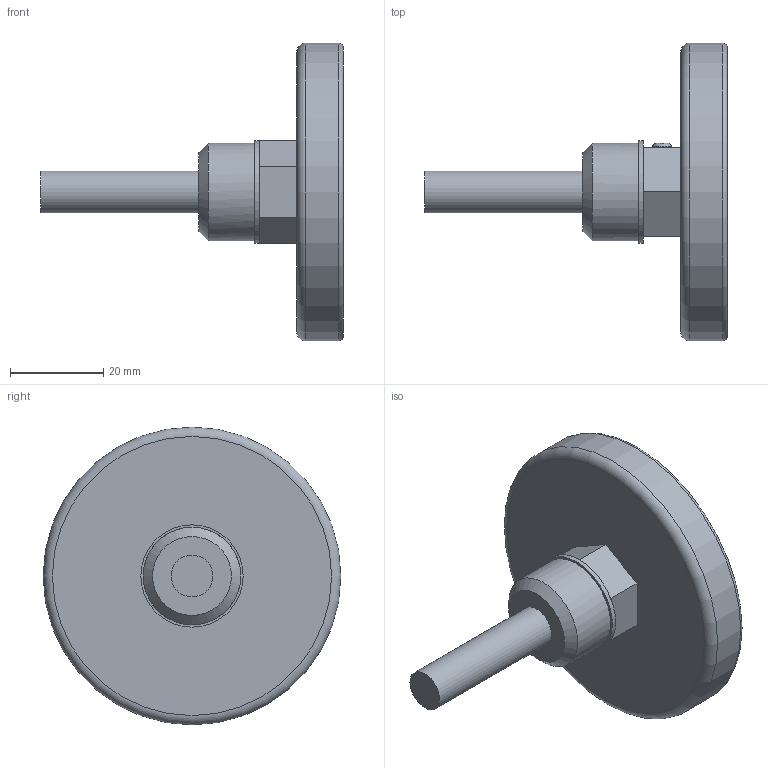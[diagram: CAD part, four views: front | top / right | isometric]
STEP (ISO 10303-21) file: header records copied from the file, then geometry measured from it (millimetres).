
FILE_DESCRIPTION(/* description */ ('БТ-31.211.46'),/* implementation_level */ '2;1');
FILE_NAME(/* name */ 'C:\STEP\БТ-31.211\БТ-31.211.46.stp',/* time_stamp */ '2023-05-23T09:55:46+03:00',/* author */ ('Tech'),/* organization */ (''),/* preprocessor_version */ 'ST-DEVELOPER v18.1',/* originating_system */ 'Autodesk Inventor 2021',/* authorisation */ '');
FILE_SCHEMA (('AUTOMOTIVE_DESIGN { 1 0 10303 214 3 1 1 }'));
Length unit declared in the file: millimetre
Products named in the file (1): БТ-31.211.46
Bounding box: 65 x 64 x 64 mm (x, y, z)
Volume: 33346 mm3; surface area: 14420.4 mm2
Topology: 3 solids, 3 shells, 380 faces, 943 edges, 637 vertices
Faces by surface type: plane 322, cylinder 27, bspline 26, torus 4, cone 1
Full cylindrical faces by diameter (mm): 0.564 x1, 2 x1, 2.5 x1, 4 x1, 6 x1, 7 x1, 9 x1, 12 x1, 14 x3, 20.955 x1, 22 x1, 54 x1, 64 x1
Entity records: 11804 total; most frequent: CARTESIAN_POINT 2748, ORIENTED_EDGE 1886, DIRECTION 1695, EDGE_CURVE 943, LINE 787, VECTOR 787, VERTEX_POINT 637, AXIS2_PLACEMENT_3D 454
